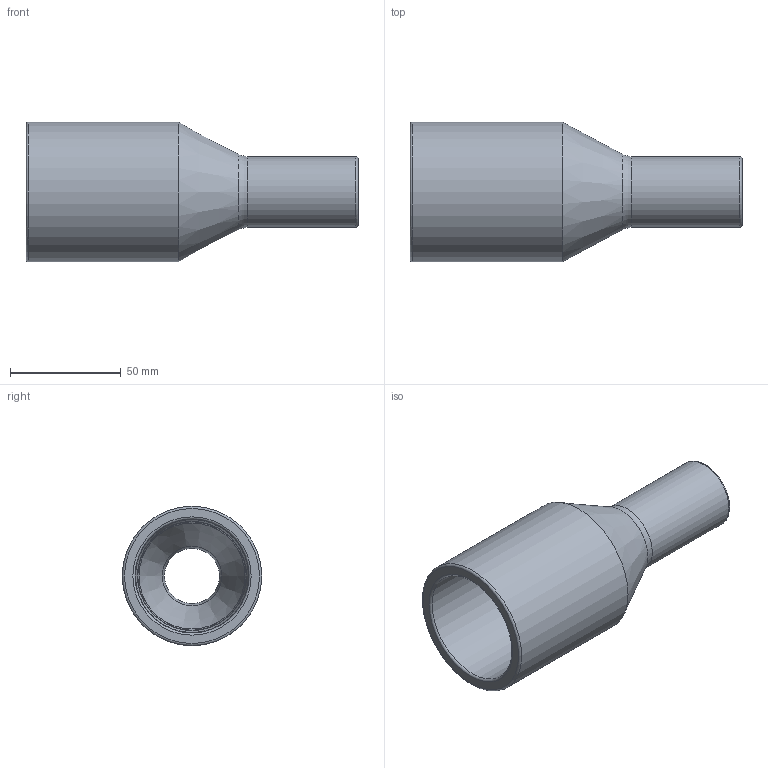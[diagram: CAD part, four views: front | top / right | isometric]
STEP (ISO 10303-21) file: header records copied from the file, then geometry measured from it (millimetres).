
FILE_DESCRIPTION(/* description */ (''),/* implementation_level */ '2;1');
FILE_NAME(/* name */ 'X:\Bänninger\ACAD\Katalogteile\PE\Reduktion\Reduktion 63-32.stp',/* time_stamp */ '2018-12-06T10:01:37+01:00',/* author */ ('Kathrin.Davari'),/* organization */ (''),/* preprocessor_version */ 'ST-DEVELOPER v15.2',/* originating_system */ 'Autodesk Inventor 2014',/* authorisation */ '473802 mm^3');
FILE_SCHEMA (('AUTOMOTIVE_DESIGN { 1 0 10303 214 3 1 1 }'));
Length unit declared in the file: millimetre
Products named in the file (1): Reduktion 63-50-40-32
Bounding box: 150 x 63 x 63 mm (x, y, z)
Volume: 112694.2 mm3; surface area: 43652 mm2
Topology: 1 solids, 1 shells, 23 faces, 44 edges, 23 vertices
Faces by surface type: torus 11, cylinder 6, cone 4, plane 2
Full cylindrical faces by diameter (mm): 25 x1, 26 x1, 32 x1, 49 x1, 51.4 x1, 63 x1
Entity records: 492 total; most frequent: DIRECTION 94, CARTESIAN_POINT 70, AXIS2_PLACEMENT_3D 47, EDGE_LOOP 46, ORIENTED_EDGE 46, FACE_BOUND 23, FACE_OUTER_BOUND 23, CIRCLE 23
